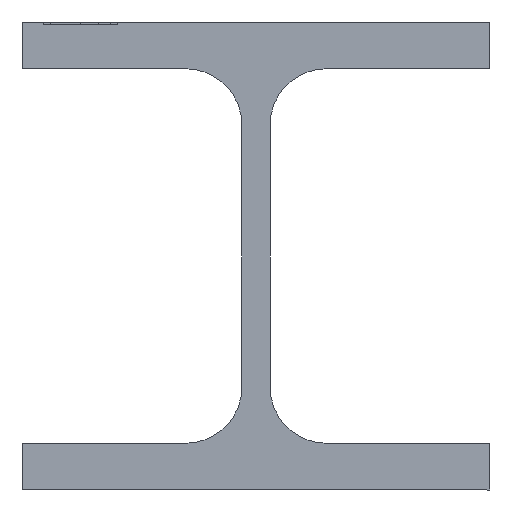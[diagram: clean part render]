
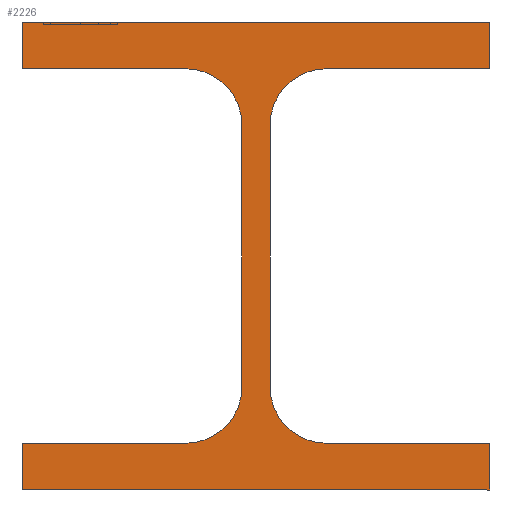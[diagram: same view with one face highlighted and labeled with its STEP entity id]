
A CAD part, left-side view. The second image highlights one B-rep face of the part: STEP entity #2226.
In plain terms, the highlighted planar face has unit normal (-1, 0, 0).
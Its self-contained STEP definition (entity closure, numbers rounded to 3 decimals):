
#6 = VERTEX_POINT ( 'NONE', #2130 ) ;
#31 = VERTEX_POINT ( 'NONE', #665 ) ;
#52 = DIRECTION ( 'NONE',  ( 0., -1., 0. ) ) ;
#96 = CARTESIAN_POINT ( 'NONE',  ( 6215., -15., 2312. ) ) ;
#117 = VECTOR ( 'NONE', #2167, 1000. ) ;
#125 = LINE ( 'NONE', #727, #1465 ) ;
#127 = LINE ( 'NONE', #564, #1148 ) ;
#136 = VERTEX_POINT ( 'NONE', #2047 ) ;
#153 = EDGE_CURVE ( 'NONE', #1295, #595, #286, .T. ) ;
#208 = CARTESIAN_POINT ( 'NONE',  ( 6215., -15., 2380. ) ) ;
#239 = CARTESIAN_POINT ( 'NONE',  ( 6215., -3., 2312. ) ) ;
#248 = ORIENTED_EDGE ( 'NONE', *, *, #334, .F. ) ;
#286 = CIRCLE ( 'NONE', #917, 12. ) ;
#333 = DIRECTION ( 'NONE',  ( 0., 0., -1. ) ) ;
#334 = EDGE_CURVE ( 'NONE', #6, #1631, #363, .T. ) ;
#338 = CIRCLE ( 'NONE', #388, 12. ) ;
#363 = LINE ( 'NONE', #1849, #1099 ) ;
#388 = AXIS2_PLACEMENT_3D ( 'NONE', #2625, #1350, #1562 ) ;
#427 = ORIENTED_EDGE ( 'NONE', *, *, #1897, .F. ) ;
#437 = EDGE_CURVE ( 'NONE', #1944, #1574, #2341, .T. ) ;
#442 = DIRECTION ( 'NONE',  ( -1., 0., 0. ) ) ;
#456 = DIRECTION ( 'NONE',  ( 1., 0., 0. ) ) ;
#462 = ORIENTED_EDGE ( 'NONE', *, *, #2410, .F. ) ;
#463 = DIRECTION ( 'NONE',  ( -1., 0., 0. ) ) ;
#476 = VECTOR ( 'NONE', #799, 1000. ) ;
#488 = DIRECTION ( 'NONE',  ( 0., 0., 1. ) ) ;
#497 = LINE ( 'NONE', #1381, #1237 ) ;
#503 = CARTESIAN_POINT ( 'NONE',  ( 6215., 15., 2300. ) ) ;
#518 = CIRCLE ( 'NONE', #1511, 12. ) ;
#527 = ORIENTED_EDGE ( 'NONE', *, *, #2101, .F. ) ;
#552 = ORIENTED_EDGE ( 'NONE', *, *, #2330, .F. ) ;
#564 = CARTESIAN_POINT ( 'NONE',  ( 6215., -50., 2290. ) ) ;
#595 = VERTEX_POINT ( 'NONE', #2034 ) ;
#665 = CARTESIAN_POINT ( 'NONE',  ( 6215., 3., 2368. ) ) ;
#668 = DIRECTION ( 'NONE',  ( 0., 0., -1. ) ) ;
#669 = CARTESIAN_POINT ( 'NONE',  ( 6215., -50., 2300. ) ) ;
#707 = ORIENTED_EDGE ( 'NONE', *, *, #153, .F. ) ;
#718 = ORIENTED_EDGE ( 'NONE', *, *, #1673, .F. ) ;
#727 = CARTESIAN_POINT ( 'NONE',  ( 6215., 50., 2290. ) ) ;
#750 = CARTESIAN_POINT ( 'NONE',  ( 6215., -15., 2380. ) ) ;
#799 = DIRECTION ( 'NONE',  ( 0., -1., 0. ) ) ;
#810 = VERTEX_POINT ( 'NONE', #904 ) ;
#812 = CARTESIAN_POINT ( 'NONE',  ( 6215., -50., 2300. ) ) ;
#872 = DIRECTION ( 'NONE',  ( 0., 0., -1. ) ) ;
#900 = CARTESIAN_POINT ( 'NONE',  ( 6215., 15., 2312. ) ) ;
#904 = CARTESIAN_POINT ( 'NONE',  ( 6215., 15., 2380. ) ) ;
#917 = AXIS2_PLACEMENT_3D ( 'NONE', #96, #2666, #1806 ) ;
#960 = CARTESIAN_POINT ( 'NONE',  ( 6215., 50., 2390. ) ) ;
#967 = CARTESIAN_POINT ( 'NONE',  ( 6215., -50., 2390. ) ) ;
#973 = DIRECTION ( 'NONE',  ( 0., 0., -1. ) ) ;
#996 = VERTEX_POINT ( 'NONE', #503 ) ;
#1028 = EDGE_CURVE ( 'NONE', #2658, #1283, #125, .T. ) ;
#1099 = VECTOR ( 'NONE', #2455, 1000. ) ;
#1108 = AXIS2_PLACEMENT_3D ( 'NONE', #2366, #456, #1306 ) ;
#1113 = CARTESIAN_POINT ( 'NONE',  ( 6215., 15., 2300. ) ) ;
#1130 = ORIENTED_EDGE ( 'NONE', *, *, #2756, .F. ) ;
#1148 = VECTOR ( 'NONE', #333, 1000. ) ;
#1202 = AXIS2_PLACEMENT_3D ( 'NONE', #900, #463, #872 ) ;
#1237 = VECTOR ( 'NONE', #2394, 1000. ) ;
#1238 = VECTOR ( 'NONE', #1587, 1000. ) ;
#1270 = ORIENTED_EDGE ( 'NONE', *, *, #1599, .F. ) ;
#1283 = VERTEX_POINT ( 'NONE', #2358 ) ;
#1295 = VERTEX_POINT ( 'NONE', #239 ) ;
#1306 = DIRECTION ( 'NONE',  ( 0., 0., -1. ) ) ;
#1318 = VECTOR ( 'NONE', #1680, 1000. ) ;
#1350 = DIRECTION ( 'NONE',  ( -1., 0., 0. ) ) ;
#1372 = LINE ( 'NONE', #2644, #2089 ) ;
#1380 = CIRCLE ( 'NONE', #1202, 12. ) ;
#1381 = CARTESIAN_POINT ( 'NONE',  ( 6215., 50., 2380. ) ) ;
#1389 = CARTESIAN_POINT ( 'NONE',  ( 6215., -50., 2380. ) ) ;
#1402 = LINE ( 'NONE', #967, #2049 ) ;
#1422 = CARTESIAN_POINT ( 'NONE',  ( 6215., 3., 2312. ) ) ;
#1431 = ORIENTED_EDGE ( 'NONE', *, *, #2182, .F. ) ;
#1465 = VECTOR ( 'NONE', #2457, 1000. ) ;
#1511 = AXIS2_PLACEMENT_3D ( 'NONE', #2351, #442, #668 ) ;
#1516 = VERTEX_POINT ( 'NONE', #669 ) ;
#1524 = PLANE ( 'NONE',  #1108 ) ;
#1533 = LINE ( 'NONE', #1113, #117 ) ;
#1536 = CARTESIAN_POINT ( 'NONE',  ( 6215., -3., 2368. ) ) ;
#1557 = EDGE_CURVE ( 'NONE', #810, #6, #497, .T. ) ;
#1562 = DIRECTION ( 'NONE',  ( 0., 0., -1. ) ) ;
#1565 = LINE ( 'NONE', #1591, #2442 ) ;
#1574 = VERTEX_POINT ( 'NONE', #750 ) ;
#1587 = DIRECTION ( 'NONE',  ( 0., 0., 1. ) ) ;
#1591 = CARTESIAN_POINT ( 'NONE',  ( 6215., 3., 2368. ) ) ;
#1599 = EDGE_CURVE ( 'NONE', #1574, #2235, #338, .T. ) ;
#1618 = LINE ( 'NONE', #812, #476 ) ;
#1631 = VERTEX_POINT ( 'NONE', #960 ) ;
#1635 = ORIENTED_EDGE ( 'NONE', *, *, #1557, .F. ) ;
#1673 = EDGE_CURVE ( 'NONE', #595, #1516, #1618, .T. ) ;
#1680 = DIRECTION ( 'NONE',  ( 0., 1., 0. ) ) ;
#1682 = ORIENTED_EDGE ( 'NONE', *, *, #2599, .F. ) ;
#1754 = VERTEX_POINT ( 'NONE', #2360 ) ;
#1798 = LINE ( 'NONE', #2640, #1238 ) ;
#1806 = DIRECTION ( 'NONE',  ( 0., 0., -1. ) ) ;
#1807 = EDGE_CURVE ( 'NONE', #1754, #996, #1533, .T. ) ;
#1849 = CARTESIAN_POINT ( 'NONE',  ( 6215., 50., 2390. ) ) ;
#1897 = EDGE_CURVE ( 'NONE', #1516, #2658, #127, .T. ) ;
#1939 = FACE_OUTER_BOUND ( 'NONE', #2011, .T. ) ;
#1944 = VERTEX_POINT ( 'NONE', #1389 ) ;
#1990 = DIRECTION ( 'NONE',  ( 0., 0., -1. ) ) ;
#2011 = EDGE_LOOP ( 'NONE', ( #2337, #427, #718, #707, #462, #1270, #2260, #552, #1682, #248, #1635, #1431, #1130, #2513, #2208, #527 ) ) ;
#2033 = CARTESIAN_POINT ( 'NONE',  ( 6215., -50., 2380. ) ) ;
#2034 = CARTESIAN_POINT ( 'NONE',  ( 6215., -15., 2300. ) ) ;
#2047 = CARTESIAN_POINT ( 'NONE',  ( 6215., -50., 2390. ) ) ;
#2049 = VECTOR ( 'NONE', #52, 1000. ) ;
#2089 = VECTOR ( 'NONE', #1990, 1000. ) ;
#2101 = EDGE_CURVE ( 'NONE', #1283, #1754, #1798, .T. ) ;
#2130 = CARTESIAN_POINT ( 'NONE',  ( 6215., 50., 2380. ) ) ;
#2167 = DIRECTION ( 'NONE',  ( 0., -1., 0. ) ) ;
#2182 = EDGE_CURVE ( 'NONE', #31, #810, #518, .T. ) ;
#2208 = ORIENTED_EDGE ( 'NONE', *, *, #1807, .F. ) ;
#2226 = ADVANCED_FACE ( 'NONE', ( #1939 ), #1524, .F. ) ;
#2235 = VERTEX_POINT ( 'NONE', #1536 ) ;
#2260 = ORIENTED_EDGE ( 'NONE', *, *, #437, .F. ) ;
#2330 = EDGE_CURVE ( 'NONE', #136, #1944, #2668, .T. ) ;
#2337 = ORIENTED_EDGE ( 'NONE', *, *, #1028, .F. ) ;
#2341 = LINE ( 'NONE', #208, #1318 ) ;
#2342 = VERTEX_POINT ( 'NONE', #1422 ) ;
#2351 = CARTESIAN_POINT ( 'NONE',  ( 6215., 15., 2368. ) ) ;
#2358 = CARTESIAN_POINT ( 'NONE',  ( 6215., 50., 2290. ) ) ;
#2360 = CARTESIAN_POINT ( 'NONE',  ( 6215., 50., 2300. ) ) ;
#2366 = CARTESIAN_POINT ( 'NONE',  ( 6215., 0., 0. ) ) ;
#2394 = DIRECTION ( 'NONE',  ( 0., 1., 0. ) ) ;
#2410 = EDGE_CURVE ( 'NONE', #2235, #1295, #1372, .T. ) ;
#2433 = VECTOR ( 'NONE', #973, 1000. ) ;
#2442 = VECTOR ( 'NONE', #488, 1000. ) ;
#2455 = DIRECTION ( 'NONE',  ( 0., 0., 1. ) ) ;
#2457 = DIRECTION ( 'NONE',  ( 0., 1., 0. ) ) ;
#2513 = ORIENTED_EDGE ( 'NONE', *, *, #2740, .F. ) ;
#2599 = EDGE_CURVE ( 'NONE', #1631, #136, #1402, .T. ) ;
#2625 = CARTESIAN_POINT ( 'NONE',  ( 6215., -15., 2368. ) ) ;
#2640 = CARTESIAN_POINT ( 'NONE',  ( 6215., 50., 2300. ) ) ;
#2644 = CARTESIAN_POINT ( 'NONE',  ( 6215., -3., 2312. ) ) ;
#2658 = VERTEX_POINT ( 'NONE', #2710 ) ;
#2666 = DIRECTION ( 'NONE',  ( -1., 0., 0. ) ) ;
#2668 = LINE ( 'NONE', #2033, #2433 ) ;
#2710 = CARTESIAN_POINT ( 'NONE',  ( 6215., -50., 2290. ) ) ;
#2740 = EDGE_CURVE ( 'NONE', #996, #2342, #1380, .T. ) ;
#2756 = EDGE_CURVE ( 'NONE', #2342, #31, #1565, .T. ) ;
